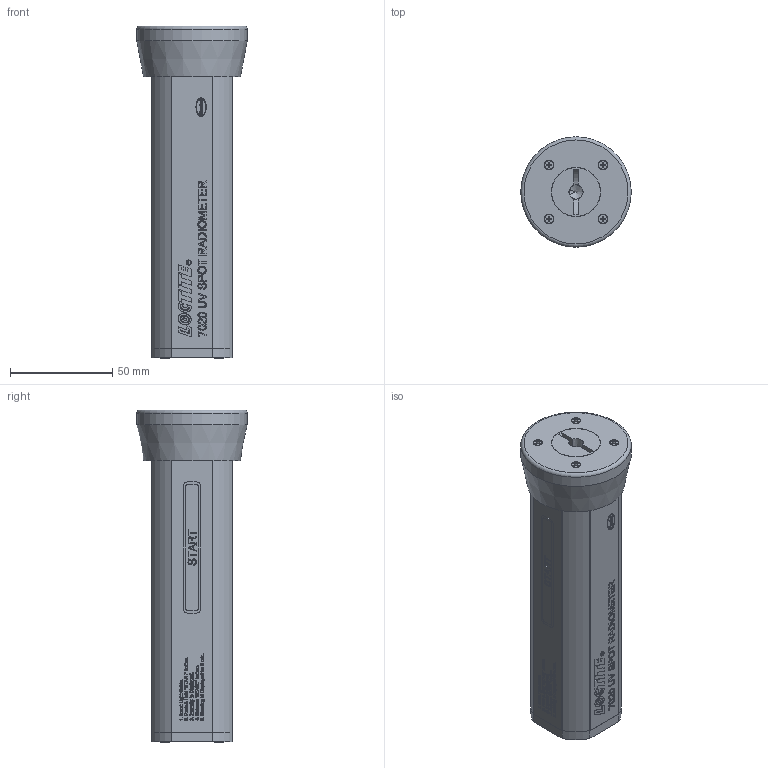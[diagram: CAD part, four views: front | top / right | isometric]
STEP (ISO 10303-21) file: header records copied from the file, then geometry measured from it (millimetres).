
FILE_DESCRIPTION((''),'2;1');
FILE_NAME('C:\3D Projects\1406024 UV 7020 Spot Radiometer SG-0911-06378\1406024 Ultraviolet Wand Radiometer 01-13-2010.stp','2010-01-20T13:49:48',('patch'),(''),'Autodesk Inventor 2010','Autodesk Inventor 2010','');
FILE_SCHEMA(('AUTOMOTIVE_DESIGN { 1 0 10303 214 1 1 1 1 }'));
Length unit declared in the file: inch
Products named in the file (11): 1406024 Ultraviolet Wand Radiometer 01-13-2010; 8902201 Ultraviolet Wand Radiometer Sub-Assembly; 8902201 Radiometer Body; 8902201 End Cap; 8902201 Radiometer Optics Head; 8902201 Radiometer 5mm Adapter; 1406024 Phillips Flat Head Screw 82 Deg #2-56 x 0.25; 8902201 Product Label 01-13-2010; 8902201 Start Label; 8902201 Meter Reading Label; 8902201 Address Label
Assembly tree (17 placements, depth 3):
  1406024 Ultraviolet Wand Radiometer 01-13-2010
    8902201 Ultraviolet Wand Radiometer Sub-Assembly
      8902201 Radiometer Body
      8902201 End Cap
      8902201 Radiometer Optics Head
      8902201 Radiometer 5mm Adapter
      1406024 Phillips Flat Head Screw 82 Deg #2-56 x 0.25  x8
    8902201 Product Label 01-13-2010
    8902201 Start Label
    8902201 Meter Reading Label
    8902201 Address Label
Bounding box: 54.1 x 54.1 x 162.59 mm (x, y, z)
Volume: 242545.2 mm3; surface area: 58893.4 mm2
Topology: 16 solids, 16 shells, 4225 faces, 11745 edges, 7877 vertices
Faces by surface type: plane 2437, bspline 1309, cone 271, cylinder 207, torus 1
Full cylindrical faces by diameter (mm): 1.702 x4, 1.846 x80, 2.184 x72, 22.911 x1, 25.4 x1, 45.593 x1, 54.102 x1
Entity records: 126392 total; most frequent: CARTESIAN_POINT 38017, ORIENTED_EDGE 20008, DIRECTION 12354, EDGE_CURVE 10004, VECTOR 7190, LINE 7190, VERTEX_POINT 6722, EDGE_LOOP 4147
